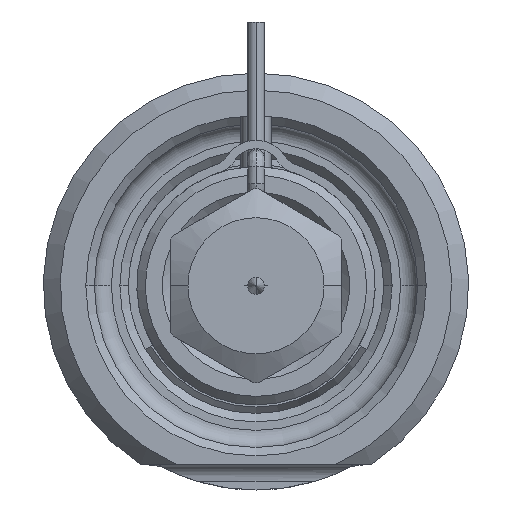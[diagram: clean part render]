
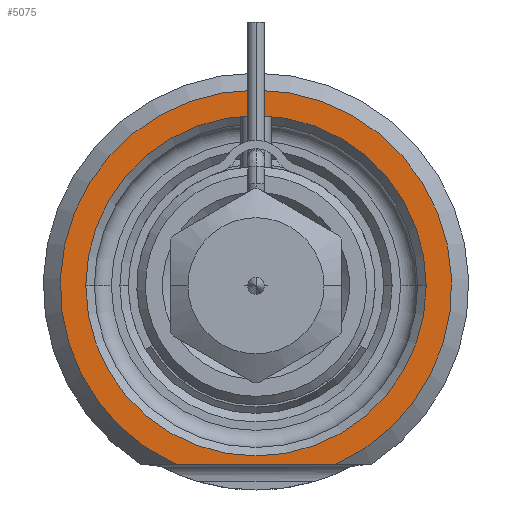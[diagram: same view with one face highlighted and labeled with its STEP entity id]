
A CAD part, front view. The second image highlights one B-rep face of the part: STEP entity #5075.
In plain terms, the highlighted planar face has unit normal (0, -1, 0).
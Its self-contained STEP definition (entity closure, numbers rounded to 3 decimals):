
#1266=CARTESIAN_POINT('',(0.,0.,0.));
#1267=DIRECTION('',(0.,-1.,0.));
#1268=DIRECTION('',(0.408,0.,-0.913));
#1269=AXIS2_PLACEMENT_3D('',#1266,#1267,#1268);
#1290=DIRECTION('',(1.,0.,0.));
#1291=VECTOR('',#1290,9.381);
#1292=CARTESIAN_POINT('',(-4.69,0.,-10.5));
#1293=LINE('',#1292,#1291);
#1294=CARTESIAN_POINT('',(0.,0.,0.));
#1295=DIRECTION('',(0.,1.,0.));
#1296=DIRECTION('',(-1.,0.,0.));
#1297=AXIS2_PLACEMENT_3D('',#1294,#1295,#1296);
#1299=CARTESIAN_POINT('',(0.,0.,0.));
#1300=DIRECTION('',(0.,1.,0.));
#1301=DIRECTION('',(1.,0.,0.));
#1302=AXIS2_PLACEMENT_3D('',#1299,#1300,#1301);
#3203=CARTESIAN_POINT('',(-10.,0.,0.));
#3204=CARTESIAN_POINT('',(10.,0.,0.));
#3205=VERTEX_POINT('',#3203);
#3206=VERTEX_POINT('',#3204);
#3247=CARTESIAN_POINT('',(-4.69,0.,-10.5));
#3248=CARTESIAN_POINT('',(4.69,0.,-10.5));
#3249=VERTEX_POINT('',#3247);
#3250=VERTEX_POINT('',#3248);
#5060=CARTESIAN_POINT('',(0.,0.,0.));
#5061=DIRECTION('',(0.,-1.,0.));
#5062=DIRECTION('',(1.,0.,0.));
#5063=AXIS2_PLACEMENT_3D('',#5060,#5061,#5062);
#5064=PLANE('',#5063);
#5065=ORIENTED_EDGE('',*,*,#4995,.F.);
#5066=ORIENTED_EDGE('',*,*,#5052,.F.);
#5067=EDGE_LOOP('',(#5065,#5066));
#5068=FACE_OUTER_BOUND('',#5067,.F.);
#5070=ORIENTED_EDGE('',*,*,#5069,.F.);
#5072=ORIENTED_EDGE('',*,*,#5071,.F.);
#5073=EDGE_LOOP('',(#5070,#5072));
#5074=FACE_BOUND('',#5073,.F.);
#5075=ADVANCED_FACE('',(#5068,#5074),#5064,.T.);
#1270=CIRCLE('',#1269,11.5);
#1298=CIRCLE('',#1297,10.);
#1303=CIRCLE('',#1302,10.);
#4995=EDGE_CURVE('',#3249,#3250,#1293,.T.);
#5052=EDGE_CURVE('',#3250,#3249,#1270,.T.);
#5069=EDGE_CURVE('',#3205,#3206,#1298,.T.);
#5071=EDGE_CURVE('',#3206,#3205,#1303,.T.);
